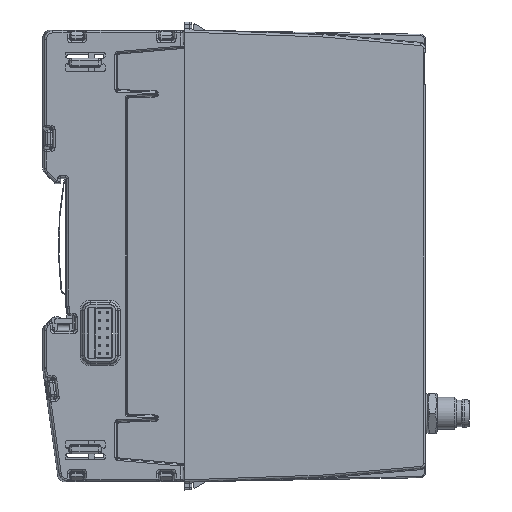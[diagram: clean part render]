
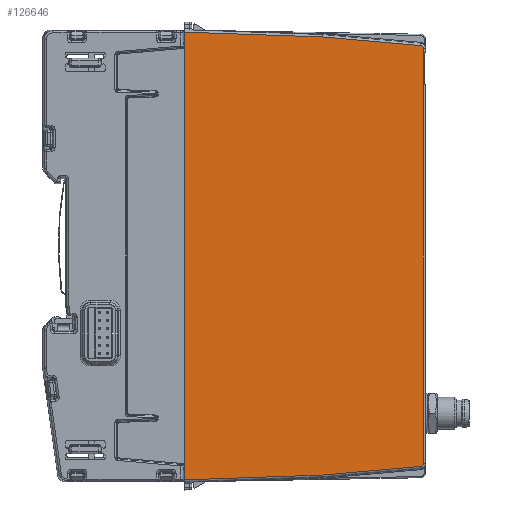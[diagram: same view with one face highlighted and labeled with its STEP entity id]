
A CAD part, left-side view. The second image highlights one B-rep face of the part: STEP entity #126646.
In plain terms, the highlighted planar face has unit normal (-1, -0.018, 0).
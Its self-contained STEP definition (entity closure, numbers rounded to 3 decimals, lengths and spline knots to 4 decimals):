
#1455=ELLIPSE('',#135413,0.0315,0.0315);
#1456=ELLIPSE('',#135414,0.0315,0.0315);
#6594=PLANE('',#135412);
#12371=FACE_OUTER_BOUND('',#19373,.T.);
#19373=EDGE_LOOP('',(#102723,#102724,#102725,#102726,#102727,#102728,#102729,
#102730,#102731,#102732));
#30760=LINE('',#213685,#43293);
#30761=LINE('',#213691,#43294);
#30762=LINE('',#213693,#43295);
#30763=LINE('',#213695,#43296);
#30764=LINE('',#213696,#43297);
#30765=LINE('',#213698,#43298);
#30766=LINE('',#213702,#43299);
#30767=LINE('',#213705,#43300);
#43293=VECTOR('',#161110,39.3701);
#43294=VECTOR('',#161117,39.3701);
#43295=VECTOR('',#161118,39.3701);
#43296=VECTOR('',#161119,39.3701);
#43297=VECTOR('',#161120,39.3701);
#43298=VECTOR('',#161121,39.3701);
#43299=VECTOR('',#161124,39.3701);
#43300=VECTOR('',#161127,39.3701);
#57482=VERTEX_POINT('',#213683);
#57483=VERTEX_POINT('',#213684);
#57484=VERTEX_POINT('',#213689);
#57485=VERTEX_POINT('',#213690);
#57486=VERTEX_POINT('',#213692);
#57487=VERTEX_POINT('',#213694);
#57488=VERTEX_POINT('',#213697);
#57489=VERTEX_POINT('',#213699);
#57490=VERTEX_POINT('',#213701);
#57491=VERTEX_POINT('',#213703);
#73078=EDGE_CURVE('',#57482,#57483,#30760,.T.);
#73081=EDGE_CURVE('',#57484,#57485,#30761,.T.);
#73082=EDGE_CURVE('',#57485,#57486,#30762,.T.);
#73083=EDGE_CURVE('',#57487,#57486,#30763,.T.);
#73084=EDGE_CURVE('',#57487,#57482,#30764,.T.);
#73085=EDGE_CURVE('',#57483,#57488,#30765,.T.);
#73086=EDGE_CURVE('',#57488,#57489,#1455,.T.);
#73087=EDGE_CURVE('',#57489,#57490,#30766,.T.);
#73088=EDGE_CURVE('',#57490,#57491,#1456,.T.);
#73089=EDGE_CURVE('',#57491,#57484,#30767,.T.);
#102723=ORIENTED_EDGE('',*,*,#73081,.T.);
#102724=ORIENTED_EDGE('',*,*,#73082,.T.);
#102725=ORIENTED_EDGE('',*,*,#73083,.F.);
#102726=ORIENTED_EDGE('',*,*,#73084,.T.);
#102727=ORIENTED_EDGE('',*,*,#73078,.T.);
#102728=ORIENTED_EDGE('',*,*,#73085,.T.);
#102729=ORIENTED_EDGE('',*,*,#73086,.T.);
#102730=ORIENTED_EDGE('',*,*,#73087,.T.);
#102731=ORIENTED_EDGE('',*,*,#73088,.T.);
#102732=ORIENTED_EDGE('',*,*,#73089,.T.);
#126646=ADVANCED_FACE('',(#12371),#6594,.T.);
#135412=AXIS2_PLACEMENT_3D('',#213688,#161115,#161116);
#135413=AXIS2_PLACEMENT_3D('',#213700,#161122,#161123);
#135414=AXIS2_PLACEMENT_3D('',#213704,#161125,#161126);
#161110=DIRECTION('',(0.017,-0.999,0.035));
#161115=DIRECTION('center_axis',(-1.,-0.017,
0.));
#161116=DIRECTION('ref_axis',(-0.017,1.,0.));
#161117=DIRECTION('',(-0.017,0.999,0.035));
#161118=DIRECTION('',(0.,0.,-1.));
#161119=DIRECTION('',(0.,0.,1.));
#161120=DIRECTION('',(0.,0.,-1.));
#161121=DIRECTION('',(0.017,-0.996,0.087));
#161122=DIRECTION('center_axis',(-1.,-0.017,
0.));
#161123=DIRECTION('ref_axis',(0.017,-1.,0.));
#161124=DIRECTION('',(0.,0.,1.));
#161125=DIRECTION('center_axis',(-1.,-0.017,
0.));
#161126=DIRECTION('ref_axis',(0.017,-1.,0.));
#161127=DIRECTION('',(-0.017,0.996,0.087));
#213683=CARTESIAN_POINT('',(-0.0227,-0.8686,-4.2421));
#213684=CARTESIAN_POINT('',(0.0007,-2.2063,-4.1954));
#213685=CARTESIAN_POINT('',(-0.0282,-0.5512,-4.2532));
#213688=CARTESIAN_POINT('Origin',(-0.0295,-0.4749,
-2.0669));
#213689=CARTESIAN_POINT('',(0.0007,-2.2063,0.0616));
#213690=CARTESIAN_POINT('',(-0.0227,-0.8686,0.1083));
#213691=CARTESIAN_POINT('',(-0.0282,-0.5512,0.1194));
#213692=CARTESIAN_POINT('',(-0.0227,-0.8686,-0.0312));
#213693=CARTESIAN_POINT('',(-0.0227,-0.8686,0.128));
#213694=CARTESIAN_POINT('',(-0.0227,-0.8686,-4.1027));
#213695=CARTESIAN_POINT('',(-0.0227,-0.8686,-7.5932));
#213696=CARTESIAN_POINT('',(-0.0227,-0.8686,0.128));
#213697=CARTESIAN_POINT('',(0.0174,-3.163,-4.1117));
#213698=CARTESIAN_POINT('',(-0.0261,-0.6728,-4.3296));
#213699=CARTESIAN_POINT('',(0.0179,-3.1918,-4.0803));
#213700=CARTESIAN_POINT('Origin',(0.0173,-3.1603,-4.0803));
#213701=CARTESIAN_POINT('',(0.0179,-3.1918,-0.0535));
#213702=CARTESIAN_POINT('',(0.0179,-3.1918,-0.0535));
#213703=CARTESIAN_POINT('',(0.0174,-3.163,-0.0221));
#213704=CARTESIAN_POINT('Origin',(0.0173,-3.1603,
-0.0535));
#213705=CARTESIAN_POINT('',(-0.0261,-0.6728,0.1957));
